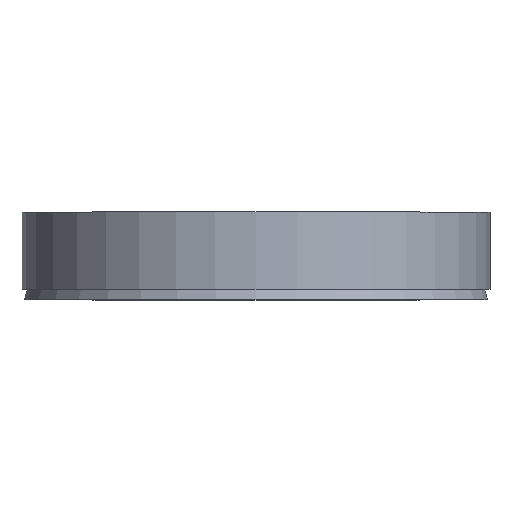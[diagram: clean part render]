
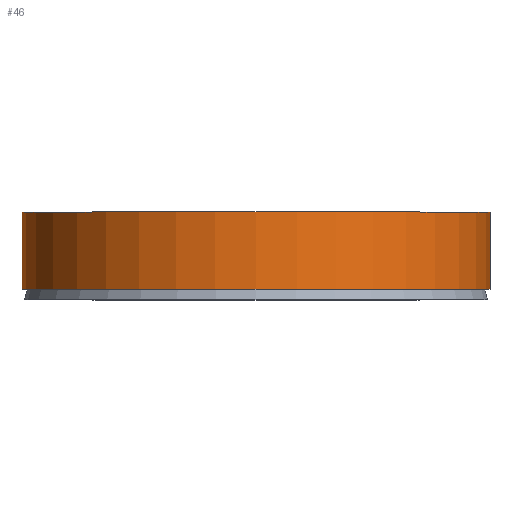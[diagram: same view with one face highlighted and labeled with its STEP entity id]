
A CAD part, top view. The second image highlights one B-rep face of the part: STEP entity #46.
In plain terms, the highlighted cylindrical face has radius 45.5 mm (diameter 91 mm), a full revolution.
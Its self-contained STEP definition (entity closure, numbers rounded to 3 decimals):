
#46 = ADVANCED_FACE( '', ( #93, #94 ), #95, .T. );
#93 = FACE_OUTER_BOUND( '', #132, .T. );
#94 = FACE_OUTER_BOUND( '', #133, .T. );
#95 = CYLINDRICAL_SURFACE( '', #134, 45.5 );
#132 = EDGE_LOOP( '', ( #179 ) );
#133 = EDGE_LOOP( '', ( #180 ) );
#134 = AXIS2_PLACEMENT_3D( '', #181, #182, #183 );
#179 = ORIENTED_EDGE( '', *, *, #189, .F. );
#180 = ORIENTED_EDGE( '', *, *, #198, .T. );
#181 = CARTESIAN_POINT( '', ( 0., -60., 0. ) );
#182 = DIRECTION( '', ( 0., 1., 0. ) );
#183 = DIRECTION( '', ( 0., 0., -1. ) );
#189 = EDGE_CURVE( '', #208, #208, #209, .T. );
#198 = EDGE_CURVE( '', #221, #221, #222, .T. );
#208 = VERTEX_POINT( '', #232 );
#209 = CIRCLE( '', #233, 45.5 );
#221 = VERTEX_POINT( '', #245 );
#222 = CIRCLE( '', #246, 45.5 );
#232 = CARTESIAN_POINT( '', ( 0., 2., -45.5 ) );
#233 = AXIS2_PLACEMENT_3D( '', #257, #258, #259 );
#245 = CARTESIAN_POINT( '', ( 0., 17., -45.5 ) );
#246 = AXIS2_PLACEMENT_3D( '', #269, #270, #271 );
#257 = CARTESIAN_POINT( '', ( 0., 2., 0. ) );
#258 = DIRECTION( '', ( 0., -1., 0. ) );
#259 = DIRECTION( '', ( 0., 0., -1. ) );
#269 = CARTESIAN_POINT( '', ( 0., 17., 0. ) );
#270 = DIRECTION( '', ( 0., -1., 0. ) );
#271 = DIRECTION( '', ( 0., 0., -1. ) );
